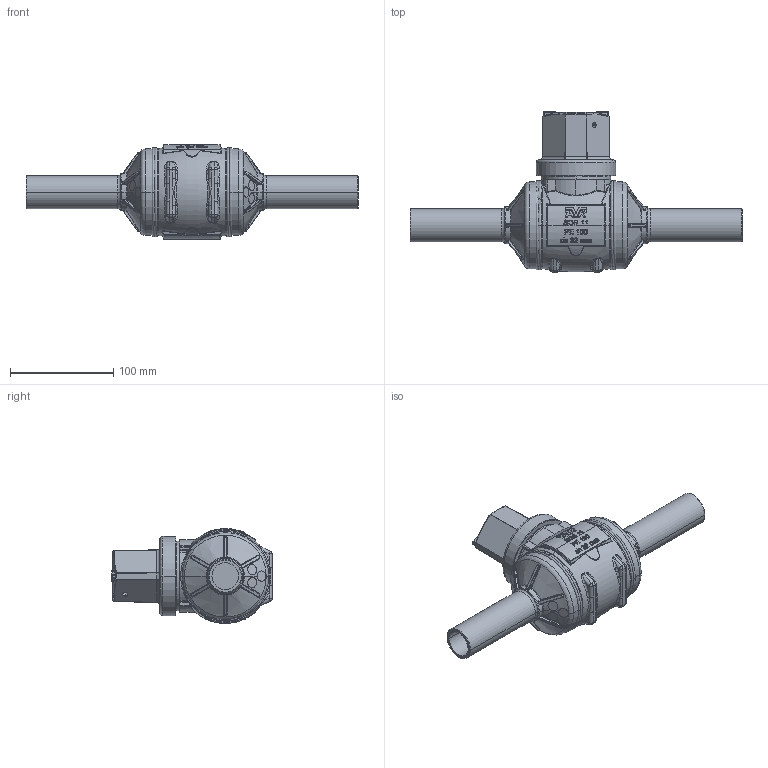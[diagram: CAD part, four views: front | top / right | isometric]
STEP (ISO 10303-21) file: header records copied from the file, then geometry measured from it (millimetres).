
FILE_DESCRIPTION (( 'STEP AP203' ), '1' );
FILE_NAME ('SOLID CERTUS PE BALL VALVE OD32-DN25 SDR11 DSL.STEP', '2021-01-11T10:34:05', ( '' ), ( '' ), 'SwSTEP 2.0', 'SolidWorks 2020', '' );
FILE_SCHEMA (( 'CONFIG_CONTROL_DESIGN' ));
Products named in the file (1): SOLID CERTUS PE BALL VALVE OD32-DN25 SDR11 DSL
Bounding box: 321.6 x 155.24 x 91.86 mm (x, y, z)
Volume: 995557.9 mm3; surface area: 91871 mm2
Topology: 1 solids, 11 shells, 1693 faces, 4207 edges, 2473 vertices
Faces by surface type: bspline 702, cylinder 386, plane 334, torus 148, sphere 67, cone 56
Entity records: 84867 total; most frequent: CARTESIAN_POINT 50793, ORIENTED_EDGE 8216, DIRECTION 5638, EDGE_CURVE 4108, VERTEX_POINT 2473, AXIS2_PLACEMENT_3D 2345, EDGE_LOOP 1737, FACE_OUTER_BOUND 1693
